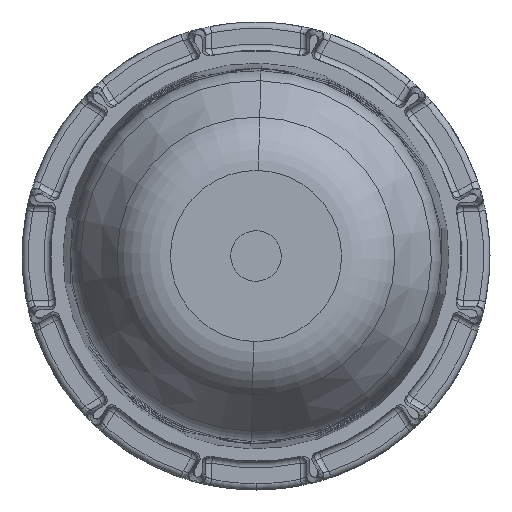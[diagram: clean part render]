
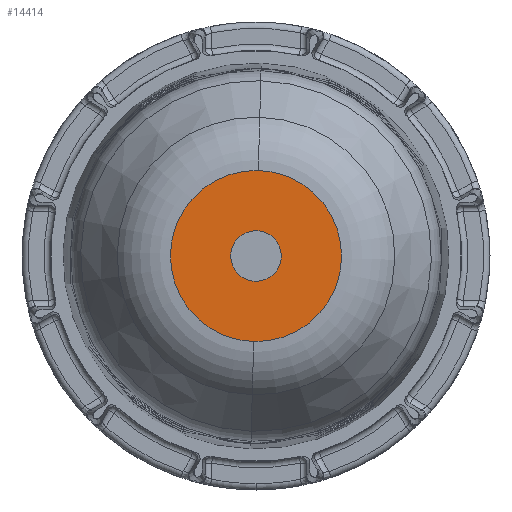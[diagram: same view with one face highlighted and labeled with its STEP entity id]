
A CAD part, front view. The second image highlights one B-rep face of the part: STEP entity #14414.
In plain terms, the highlighted planar face has unit normal (0, -1, 0).
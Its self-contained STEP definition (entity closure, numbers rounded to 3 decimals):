
#58 = ORIENTED_EDGE ( 'NONE', *, *, #14653, .T. ) ;
#152 = CIRCLE ( 'NONE', #7683, 13.531 ) ;
#1167 = CARTESIAN_POINT ( 'NONE',  ( 0., -16., 13.531 ) ) ;
#2113 = VERTEX_POINT ( 'NONE', #1167 ) ;
#2789 = FACE_OUTER_BOUND ( 'NONE', #3694, .T. ) ;
#3619 = DIRECTION ( 'NONE',  ( 0., 0., 1. ) ) ;
#3649 = AXIS2_PLACEMENT_3D ( 'NONE', #7474, #13625, #3619 ) ;
#3694 = EDGE_LOOP ( 'NONE', ( #11143, #58 ) ) ;
#4296 = DIRECTION ( 'NONE',  ( 0., 1., 0. ) ) ;
#4460 = VERTEX_POINT ( 'NONE', #8639 ) ;
#5456 = DIRECTION ( 'NONE',  ( 0., -1., 0. ) ) ;
#6050 = AXIS2_PLACEMENT_3D ( 'NONE', #9129, #4296, #12673 ) ;
#7474 = CARTESIAN_POINT ( 'NONE',  ( 0., -16., 0. ) ) ;
#7683 = AXIS2_PLACEMENT_3D ( 'NONE', #9286, #5456, #13978 ) ;
#8639 = CARTESIAN_POINT ( 'NONE',  ( 0., -16., -13.531 ) ) ;
#9129 = CARTESIAN_POINT ( 'NONE',  ( -19.001, -16., 0. ) ) ;
#9286 = CARTESIAN_POINT ( 'NONE',  ( 0., -16., 0. ) ) ;
#11143 = ORIENTED_EDGE ( 'NONE', *, *, #15582, .T. ) ;
#11659 = PLANE ( 'NONE',  #6050 ) ;
#12581 = CIRCLE ( 'NONE', #3649, 13.531 ) ;
#12673 = DIRECTION ( 'NONE',  ( 0., 0., 1. ) ) ;
#13625 = DIRECTION ( 'NONE',  ( 0., -1., 0. ) ) ;
#13978 = DIRECTION ( 'NONE',  ( 0., 0., 1. ) ) ;
#14414 = ADVANCED_FACE ( 'NONE', ( #2789 ), #11659, .F. ) ;
#14653 = EDGE_CURVE ( 'NONE', #4460, #2113, #12581, .T. ) ;
#15582 = EDGE_CURVE ( 'NONE', #2113, #4460, #152, .T. ) ;
